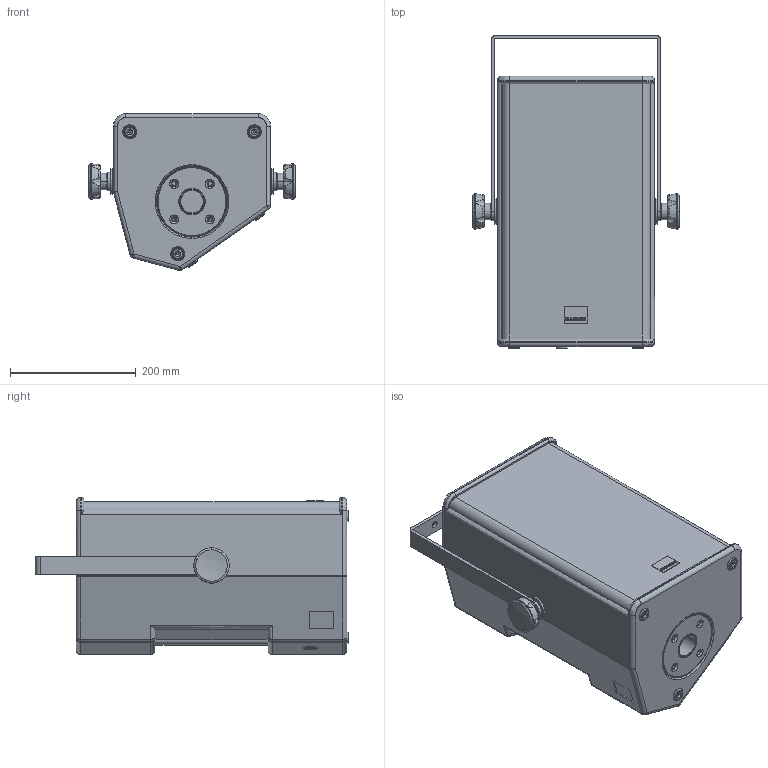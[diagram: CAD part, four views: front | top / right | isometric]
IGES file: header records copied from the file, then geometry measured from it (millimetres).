
Start section: SolidWorks IGES file using analytic representation for surfaces
Global section: file name: C:\Dokumente und Einstellungen\PC_Fabian\Desktop\TS-Serie\Seeburg_TSM8_Bracket_ver.IGS; native system: SolidWorks 2009; preprocessor: SolidWorks 2009; author: PC_Fabian; date: 121017.132810; units: millimetre
Bounding box: 328 x 498 x 249.43 mm (x, y, z)
Surface area: 1120998.2 mm2 (no closed solid volume)
Topology: 0 solids, 0 shells, 861 faces, 13729 edges, 13727 vertices
Faces by surface type: revolution 499, bspline 362
